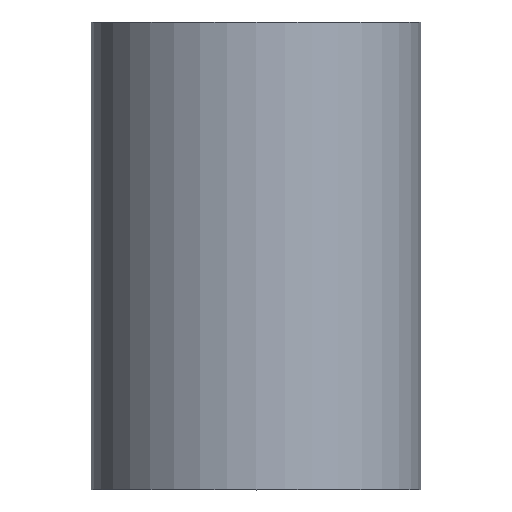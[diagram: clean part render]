
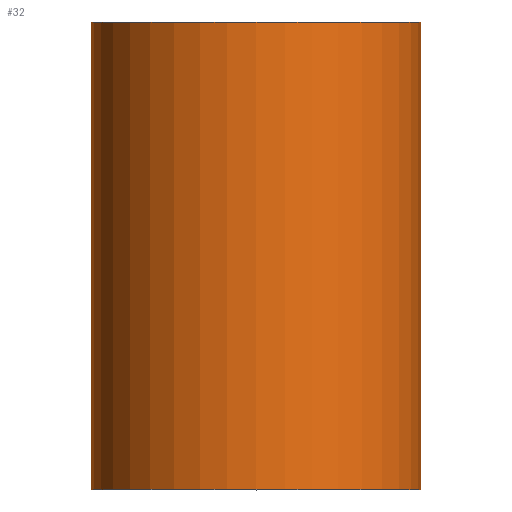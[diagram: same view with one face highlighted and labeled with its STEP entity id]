
A CAD part, top view. The second image highlights one B-rep face of the part: STEP entity #32.
In plain terms, the highlighted cylindrical face has radius 6 mm (diameter 12 mm), a full revolution.
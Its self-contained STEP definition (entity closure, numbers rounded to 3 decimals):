
#32 = ADVANCED_FACE( '', ( #61, #62 ), #63, .T. );
#61 = FACE_OUTER_BOUND( '', #84, .T. );
#62 = FACE_OUTER_BOUND( '', #85, .T. );
#63 = CYLINDRICAL_SURFACE( '', #86, 6. );
#84 = EDGE_LOOP( '', ( #105 ) );
#85 = EDGE_LOOP( '', ( #106 ) );
#86 = AXIS2_PLACEMENT_3D( '', #107, #108, #109 );
#105 = ORIENTED_EDGE( '', *, *, #118, .F. );
#106 = ORIENTED_EDGE( '', *, *, #121, .T. );
#107 = CARTESIAN_POINT( '', ( 0., 17., 0. ) );
#108 = DIRECTION( '', ( 0., 1., 0. ) );
#109 = DIRECTION( '', ( 0., 0., -1. ) );
#118 = EDGE_CURVE( '', #127, #127, #128, .T. );
#121 = EDGE_CURVE( '', #132, #132, #133, .T. );
#127 = VERTEX_POINT( '', #139 );
#128 = CIRCLE( '', #140, 6. );
#132 = VERTEX_POINT( '', #144 );
#133 = CIRCLE( '', #145, 6. );
#139 = CARTESIAN_POINT( '', ( 6., 17., 0. ) );
#140 = AXIS2_PLACEMENT_3D( '', #151, #152, #153 );
#144 = CARTESIAN_POINT( '', ( 6., 0., 0. ) );
#145 = AXIS2_PLACEMENT_3D( '', #157, #158, #159 );
#151 = CARTESIAN_POINT( '', ( 0., 17., 0. ) );
#152 = DIRECTION( '', ( 0., 1., 0. ) );
#153 = DIRECTION( '', ( 1., 0., 0. ) );
#157 = CARTESIAN_POINT( '', ( 0., 0., 0. ) );
#158 = DIRECTION( '', ( 0., 1., 0. ) );
#159 = DIRECTION( '', ( 1., 0., 0. ) );
